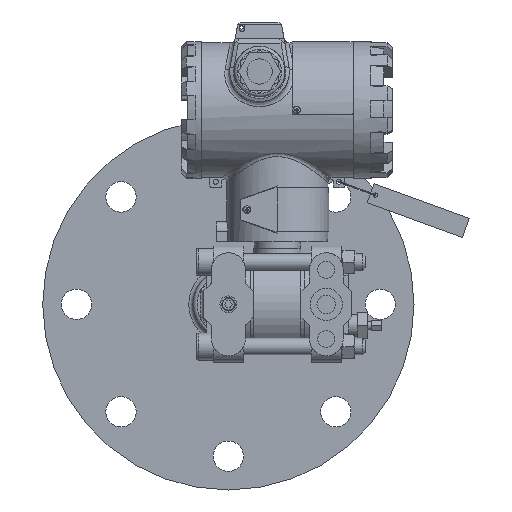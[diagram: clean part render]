
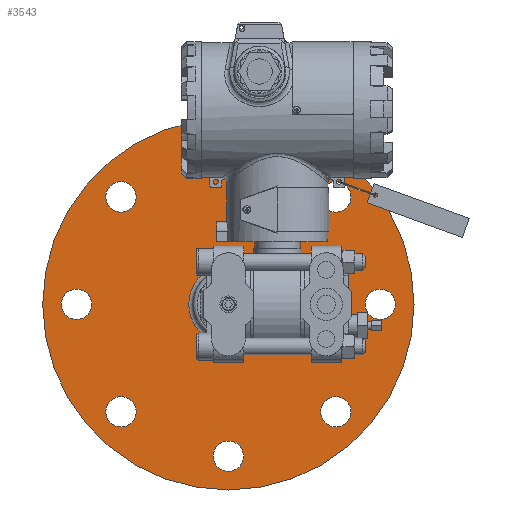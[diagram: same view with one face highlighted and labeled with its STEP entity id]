
A CAD part, front view. The second image highlights one B-rep face of the part: STEP entity #3543.
In plain terms, the highlighted planar face has unit normal (0, -1, 0).
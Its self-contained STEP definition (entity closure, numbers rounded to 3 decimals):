
#3543=ADVANCED_FACE('',(#13614,#13616,#13618,#13620,#13622,#13624,#13626,#13628,
#13630,#13632),#13634,.T.);
#13614=FACE_BOUND('',#13615,.T.);
#13615=EDGE_LOOP('',(#26485));
#13616=FACE_BOUND('',#13617,.T.);
#13617=EDGE_LOOP('',(#26486));
#13618=FACE_BOUND('',#13619,.T.);
#13619=EDGE_LOOP('',(#26487));
#13620=FACE_BOUND('',#13621,.T.);
#13621=EDGE_LOOP('',(#26488));
#13622=FACE_BOUND('',#13623,.T.);
#13623=EDGE_LOOP('',(#26489));
#13624=FACE_BOUND('',#13625,.T.);
#13625=EDGE_LOOP('',(#26490));
#13626=FACE_BOUND('',#13627,.T.);
#13627=EDGE_LOOP('',(#26491));
#13628=FACE_BOUND('',#13629,.T.);
#13629=EDGE_LOOP('',(#26492));
#13630=FACE_BOUND('',#13631,.T.);
#13631=EDGE_LOOP('',(#26493));
#13632=FACE_BOUND('',#13633,.T.);
#13633=EDGE_LOOP('',(#26494));
#13634=PLANE('',#13635);
#13635=AXIS2_PLACEMENT_3D('',#13636,#13637,#13638);
#13636=CARTESIAN_POINT('',(0.,153.,0.));
#13637=DIRECTION('',(0.,-1.,0.));
#13638=DIRECTION('',(1.,0.,0.));
#26485=ORIENTED_EDGE('',*,*,#32036,.T.);
#26486=ORIENTED_EDGE('',*,*,#32037,.T.);
#26487=ORIENTED_EDGE('',*,*,#32038,.T.);
#26488=ORIENTED_EDGE('',*,*,#32039,.T.);
#26489=ORIENTED_EDGE('',*,*,#32040,.T.);
#26490=ORIENTED_EDGE('',*,*,#32041,.T.);
#26491=ORIENTED_EDGE('',*,*,#32042,.T.);
#26492=ORIENTED_EDGE('',*,*,#32043,.T.);
#26493=ORIENTED_EDGE('',*,*,#32017,.F.);
#26494=ORIENTED_EDGE('',*,*,#32044,.T.);
#32017=EDGE_CURVE('',#35894,#35894,#35895,.T.);
#32036=EDGE_CURVE('',#35926,#35926,#35927,.T.);
#32037=EDGE_CURVE('',#35928,#35928,#35929,.T.);
#32038=EDGE_CURVE('',#35930,#35930,#35931,.T.);
#32039=EDGE_CURVE('',#35932,#35932,#35933,.T.);
#32040=EDGE_CURVE('',#35934,#35934,#35935,.T.);
#32041=EDGE_CURVE('',#35936,#35936,#35937,.T.);
#32042=EDGE_CURVE('',#35938,#35938,#35939,.T.);
#32043=EDGE_CURVE('',#35940,#35940,#35941,.T.);
#32044=EDGE_CURVE('',#35942,#35942,#35943,.T.);
#35894=VERTEX_POINT('',#48744);
#35895=CIRCLE('',#48745,23.5);
#35926=VERTEX_POINT('',#48821);
#35927=CIRCLE('',#48822,110.);
#35928=VERTEX_POINT('',#48826);
#35929=CIRCLE('',#48827,9.);
#35930=VERTEX_POINT('',#48831);
#35931=CIRCLE('',#48832,9.);
#35932=VERTEX_POINT('',#48836);
#35933=CIRCLE('',#48837,9.);
#35934=VERTEX_POINT('',#48841);
#35935=CIRCLE('',#48842,9.);
#35936=VERTEX_POINT('',#48846);
#35937=CIRCLE('',#48847,9.);
#35938=VERTEX_POINT('',#48851);
#35939=CIRCLE('',#48852,9.);
#35940=VERTEX_POINT('',#48856);
#35941=CIRCLE('',#48857,9.);
#35942=VERTEX_POINT('',#48861);
#35943=CIRCLE('',#48862,9.);
#48744=CARTESIAN_POINT('',(-52.5,153.,-113.581));
#48745=AXIS2_PLACEMENT_3D('',#48746,#48747,#48748);
#48746=CARTESIAN_POINT('',(-29.,153.,-113.581));
#48747=DIRECTION('',(0.,-1.,0.));
#48748=DIRECTION('',(1.,0.,0.));
#48821=CARTESIAN_POINT('',(81.,153.,-113.581));
#48822=AXIS2_PLACEMENT_3D('',#48823,#48824,#48825);
#48823=CARTESIAN_POINT('',(-29.,153.,-113.581));
#48824=DIRECTION('',(0.,-1.,0.));
#48825=DIRECTION('',(1.,0.,0.));
#48826=CARTESIAN_POINT('',(-101.64,153.,-49.941));
#48827=AXIS2_PLACEMENT_3D('',#48828,#48829,#48830);
#48828=CARTESIAN_POINT('',(-92.64,153.,-49.941));
#48829=DIRECTION('',(0.,1.,0.));
#48830=DIRECTION('',(-1.,0.,0.));
#48831=CARTESIAN_POINT('',(-128.,153.,-113.581));
#48832=AXIS2_PLACEMENT_3D('',#48833,#48834,#48835);
#48833=CARTESIAN_POINT('',(-119.,153.,-113.581));
#48834=DIRECTION('',(0.,1.,0.));
#48835=DIRECTION('',(-1.,0.,0.));
#48836=CARTESIAN_POINT('',(-101.64,153.,-177.22));
#48837=AXIS2_PLACEMENT_3D('',#48838,#48839,#48840);
#48838=CARTESIAN_POINT('',(-92.64,153.,-177.22));
#48839=DIRECTION('',(0.,1.,0.));
#48840=DIRECTION('',(-1.,0.,0.));
#48841=CARTESIAN_POINT('',(-38.,153.,-203.581));
#48842=AXIS2_PLACEMENT_3D('',#48843,#48844,#48845);
#48843=CARTESIAN_POINT('',(-29.,153.,-203.581));
#48844=DIRECTION('',(0.,1.,0.));
#48845=DIRECTION('',(-1.,0.,0.));
#48846=CARTESIAN_POINT('',(25.64,153.,-177.22));
#48847=AXIS2_PLACEMENT_3D('',#48848,#48849,#48850);
#48848=CARTESIAN_POINT('',(34.64,153.,-177.22));
#48849=DIRECTION('',(0.,1.,0.));
#48850=DIRECTION('',(-1.,0.,0.));
#48851=CARTESIAN_POINT('',(52.,153.,-113.581));
#48852=AXIS2_PLACEMENT_3D('',#48853,#48854,#48855);
#48853=CARTESIAN_POINT('',(61.,153.,-113.581));
#48854=DIRECTION('',(0.,1.,0.));
#48855=DIRECTION('',(-1.,0.,0.));
#48856=CARTESIAN_POINT('',(25.64,153.,-49.941));
#48857=AXIS2_PLACEMENT_3D('',#48858,#48859,#48860);
#48858=CARTESIAN_POINT('',(34.64,153.,-49.941));
#48859=DIRECTION('',(0.,1.,0.));
#48860=DIRECTION('',(-1.,0.,0.));
#48861=CARTESIAN_POINT('',(-38.,153.,-23.581));
#48862=AXIS2_PLACEMENT_3D('',#48863,#48864,#48865);
#48863=CARTESIAN_POINT('',(-29.,153.,-23.581));
#48864=DIRECTION('',(0.,1.,0.));
#48865=DIRECTION('',(-1.,0.,0.));
